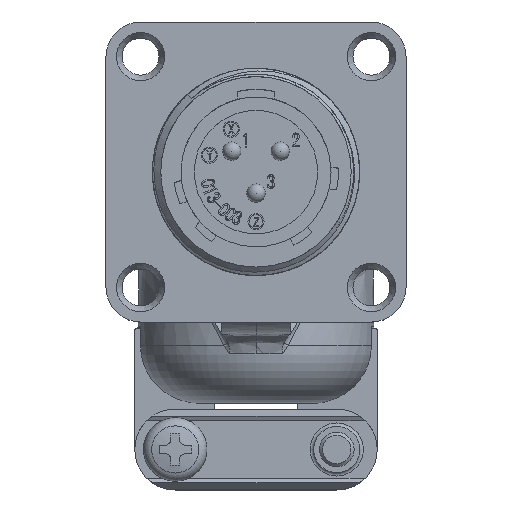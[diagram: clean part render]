
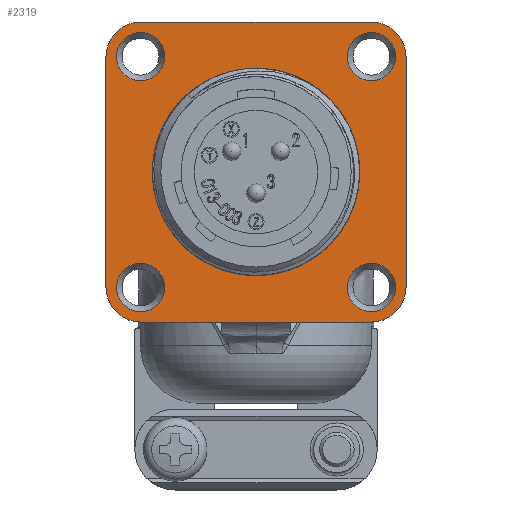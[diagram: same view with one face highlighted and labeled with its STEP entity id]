
A CAD part, top view. The second image highlights one B-rep face of the part: STEP entity #2319.
In plain terms, the highlighted planar face has unit normal (0, 0, 1).
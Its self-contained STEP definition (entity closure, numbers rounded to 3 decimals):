
#368 = ORIENTED_EDGE ( 'NONE', *, *, #5890, .F. ) ;
#435 = CARTESIAN_POINT ( 'NONE',  ( 10., 13., -10.5 ) ) ;
#471 = CIRCLE ( 'NONE', #16499, 3. ) ;
#694 = VERTEX_POINT ( 'NONE', #16224 ) ;
#932 = CARTESIAN_POINT ( 'NONE',  ( -10., 13., -10.5 ) ) ;
#1005 = CIRCLE ( 'NONE', #25252, 2.1 ) ;
#1111 = CARTESIAN_POINT ( 'NONE',  ( -7.9, 10., -10.5 ) ) ;
#1184 = FACE_BOUND ( 'NONE', #9155, .T. ) ;
#1291 = CARTESIAN_POINT ( 'NONE',  ( -13., 10., -10.5 ) ) ;
#1998 = DIRECTION ( 'NONE',  ( 1., 0., 0. ) ) ;
#2143 = AXIS2_PLACEMENT_3D ( 'NONE', #4277, #14173, #29239 ) ;
#2319 = ADVANCED_FACE ( 'NONE', ( #25149, #1184, #30175, #10415, #19708, #6972 ), #17614, .T. ) ;
#2865 = CARTESIAN_POINT ( 'NONE',  ( 10., 10., -10.5 ) ) ;
#3333 = ORIENTED_EDGE ( 'NONE', *, *, #7819, .F. ) ;
#4277 = CARTESIAN_POINT ( 'NONE',  ( 10., 10., -10.5 ) ) ;
#4804 = DIRECTION ( 'NONE',  ( -1., 0., 0. ) ) ;
#5155 = AXIS2_PLACEMENT_3D ( 'NONE', #7423, #24774, #24559 ) ;
#5664 = CIRCLE ( 'NONE', #31162, 3. ) ;
#5890 = EDGE_CURVE ( 'NONE', #22258, #22258, #14991, .T. ) ;
#5948 = VERTEX_POINT ( 'NONE', #23181 ) ;
#6508 = CARTESIAN_POINT ( 'NONE',  ( -10., -13., -10.5 ) ) ;
#6737 = VERTEX_POINT ( 'NONE', #28573 ) ;
#6787 = CARTESIAN_POINT ( 'NONE',  ( -13., -10., -10.5 ) ) ;
#6972 = FACE_BOUND ( 'NONE', #17906, .T. ) ;
#7423 = CARTESIAN_POINT ( 'NONE',  ( -10., 10., -10.5 ) ) ;
#7598 = CARTESIAN_POINT ( 'NONE',  ( 10., -10., -10.5 ) ) ;
#7746 = ORIENTED_EDGE ( 'NONE', *, *, #26817, .F. ) ;
#7785 = EDGE_CURVE ( 'NONE', #694, #13665, #25817, .T. ) ;
#7815 = CIRCLE ( 'NONE', #15331, 2.1 ) ;
#7819 = EDGE_CURVE ( 'NONE', #7927, #14527, #25036, .T. ) ;
#7927 = VERTEX_POINT ( 'NONE', #6787 ) ;
#7948 = CARTESIAN_POINT ( 'NONE',  ( 0., 0., -10.5 ) ) ;
#8345 = EDGE_LOOP ( 'NONE', ( #13578 ) ) ;
#8474 = EDGE_CURVE ( 'NONE', #29478, #694, #5664, .T. ) ;
#8718 = CIRCLE ( 'NONE', #8967, 3. ) ;
#8850 = EDGE_CURVE ( 'NONE', #20666, #26315, #8718, .T. ) ;
#8967 = AXIS2_PLACEMENT_3D ( 'NONE', #2865, #17768, #20173 ) ;
#9155 = EDGE_LOOP ( 'NONE', ( #7746 ) ) ;
#9839 = CARTESIAN_POINT ( 'NONE',  ( -10., -10., -10.5 ) ) ;
#9967 = DIRECTION ( 'NONE',  ( 0., 0., -1. ) ) ;
#10415 = FACE_BOUND ( 'NONE', #23790, .T. ) ;
#10660 = CARTESIAN_POINT ( 'NONE',  ( 10., 13., -10.5 ) ) ;
#10855 = EDGE_CURVE ( 'NONE', #14527, #11515, #17349, .T. ) ;
#10895 = DIRECTION ( 'NONE',  ( 1., 0., 0. ) ) ;
#11395 = EDGE_CURVE ( 'NONE', #5948, #5948, #17458, .T. ) ;
#11515 = VERTEX_POINT ( 'NONE', #932 ) ;
#11753 = ORIENTED_EDGE ( 'NONE', *, *, #7785, .F. ) ;
#11826 = ORIENTED_EDGE ( 'NONE', *, *, #24692, .F. ) ;
#12122 = CARTESIAN_POINT ( 'NONE',  ( 10., -10., -10.5 ) ) ;
#12258 = VECTOR ( 'NONE', #18561, 1000. ) ;
#12668 = DIRECTION ( 'NONE',  ( 0., 0., 1. ) ) ;
#12862 = DIRECTION ( 'NONE',  ( 1., 0., 0. ) ) ;
#13205 = EDGE_LOOP ( 'NONE', ( #18050, #11753, #18484, #28718, #14724, #16040, #23509, #3333 ) ) ;
#13362 = CARTESIAN_POINT ( 'NONE',  ( 13., -10., -10.5 ) ) ;
#13578 = ORIENTED_EDGE ( 'NONE', *, *, #11395, .F. ) ;
#13665 = VERTEX_POINT ( 'NONE', #6508 ) ;
#14173 = DIRECTION ( 'NONE',  ( 0., 0., 1. ) ) ;
#14282 = DIRECTION ( 'NONE',  ( 0., 0., 1. ) ) ;
#14527 = VERTEX_POINT ( 'NONE', #26327 ) ;
#14724 = ORIENTED_EDGE ( 'NONE', *, *, #8850, .F. ) ;
#14991 = CIRCLE ( 'NONE', #2143, 2.1 ) ;
#15065 = CARTESIAN_POINT ( 'NONE',  ( -10., -10., -10.5 ) ) ;
#15331 = AXIS2_PLACEMENT_3D ( 'NONE', #15065, #19951, #12862 ) ;
#15612 = VECTOR ( 'NONE', #18486, 1000. ) ;
#16040 = ORIENTED_EDGE ( 'NONE', *, *, #24090, .F. ) ;
#16224 = CARTESIAN_POINT ( 'NONE',  ( 10., -13., -10.5 ) ) ;
#16499 = AXIS2_PLACEMENT_3D ( 'NONE', #19976, #24448, #22166 ) ;
#16759 = VERTEX_POINT ( 'NONE', #18480 ) ;
#17349 = CIRCLE ( 'NONE', #5155, 3. ) ;
#17458 = CIRCLE ( 'NONE', #25247, 2.1 ) ;
#17614 = PLANE ( 'NONE',  #27761 ) ;
#17768 = DIRECTION ( 'NONE',  ( 0., 0., -1. ) ) ;
#17906 = EDGE_LOOP ( 'NONE', ( #23667 ) ) ;
#17924 = VERTEX_POINT ( 'NONE', #1111 ) ;
#18050 = ORIENTED_EDGE ( 'NONE', *, *, #19736, .F. ) ;
#18480 = CARTESIAN_POINT ( 'NONE',  ( 8.98, 0., -10.5 ) ) ;
#18484 = ORIENTED_EDGE ( 'NONE', *, *, #8474, .F. ) ;
#18486 = DIRECTION ( 'NONE',  ( 0., -1., 0. ) ) ;
#18524 = CARTESIAN_POINT ( 'NONE',  ( -10., 10., -10.5 ) ) ;
#18561 = DIRECTION ( 'NONE',  ( 0., 1., 0. ) ) ;
#19708 = FACE_BOUND ( 'NONE', #28226, .T. ) ;
#19736 = EDGE_CURVE ( 'NONE', #13665, #7927, #471, .T. ) ;
#19951 = DIRECTION ( 'NONE',  ( 0., 0., 1. ) ) ;
#19976 = CARTESIAN_POINT ( 'NONE',  ( -10., -10., -10.5 ) ) ;
#20173 = DIRECTION ( 'NONE',  ( -1., 0., 0. ) ) ;
#20666 = VERTEX_POINT ( 'NONE', #435 ) ;
#20855 = DIRECTION ( 'NONE',  ( 0., 0., -1. ) ) ;
#22166 = DIRECTION ( 'NONE',  ( 1., 0., 0. ) ) ;
#22258 = VERTEX_POINT ( 'NONE', #25530 ) ;
#22353 = DIRECTION ( 'NONE',  ( 1., 0., 0. ) ) ;
#22372 = CIRCLE ( 'NONE', #31044, 8.98 ) ;
#22415 = DIRECTION ( 'NONE',  ( 0., 0., 1. ) ) ;
#22810 = EDGE_CURVE ( 'NONE', #16759, #16759, #22372, .T. ) ;
#22823 = DIRECTION ( 'NONE',  ( 1., 0., 0. ) ) ;
#23181 = CARTESIAN_POINT ( 'NONE',  ( 12.1, -10., -10.5 ) ) ;
#23509 = ORIENTED_EDGE ( 'NONE', *, *, #10855, .F. ) ;
#23667 = ORIENTED_EDGE ( 'NONE', *, *, #22810, .T. ) ;
#23790 = EDGE_LOOP ( 'NONE', ( #368 ) ) ;
#23791 = CARTESIAN_POINT ( 'NONE',  ( 10., -13., -10.5 ) ) ;
#24090 = EDGE_CURVE ( 'NONE', #11515, #20666, #31579, .T. ) ;
#24448 = DIRECTION ( 'NONE',  ( 0., 0., -1. ) ) ;
#24559 = DIRECTION ( 'NONE',  ( 1., 0., 0. ) ) ;
#24692 = EDGE_CURVE ( 'NONE', #17924, #17924, #1005, .T. ) ;
#24774 = DIRECTION ( 'NONE',  ( 0., 0., -1. ) ) ;
#25036 = LINE ( 'NONE', #1291, #12258 ) ;
#25149 = FACE_OUTER_BOUND ( 'NONE', #13205, .T. ) ;
#25247 = AXIS2_PLACEMENT_3D ( 'NONE', #7598, #12668, #22353 ) ;
#25252 = AXIS2_PLACEMENT_3D ( 'NONE', #18524, #14282, #1998 ) ;
#25437 = VECTOR ( 'NONE', #28425, 1000. ) ;
#25530 = CARTESIAN_POINT ( 'NONE',  ( 12.1, 10., -10.5 ) ) ;
#25817 = LINE ( 'NONE', #23791, #25437 ) ;
#26234 = EDGE_CURVE ( 'NONE', #26315, #29478, #31104, .T. ) ;
#26315 = VERTEX_POINT ( 'NONE', #31359 ) ;
#26327 = CARTESIAN_POINT ( 'NONE',  ( -13., 10., -10.5 ) ) ;
#26817 = EDGE_CURVE ( 'NONE', #6737, #6737, #7815, .T. ) ;
#27761 = AXIS2_PLACEMENT_3D ( 'NONE', #9839, #22415, #29864 ) ;
#28226 = EDGE_LOOP ( 'NONE', ( #11826 ) ) ;
#28425 = DIRECTION ( 'NONE',  ( -1., 0., 0. ) ) ;
#28573 = CARTESIAN_POINT ( 'NONE',  ( -7.9, -10., -10.5 ) ) ;
#28718 = ORIENTED_EDGE ( 'NONE', *, *, #26234, .F. ) ;
#29239 = DIRECTION ( 'NONE',  ( 1., 0., 0. ) ) ;
#29478 = VERTEX_POINT ( 'NONE', #13362 ) ;
#29864 = DIRECTION ( 'NONE',  ( 1., 0., 0. ) ) ;
#30020 = VECTOR ( 'NONE', #22823, 1000. ) ;
#30175 = FACE_BOUND ( 'NONE', #8345, .T. ) ;
#31044 = AXIS2_PLACEMENT_3D ( 'NONE', #7948, #20855, #10895 ) ;
#31104 = LINE ( 'NONE', #31139, #15612 ) ;
#31139 = CARTESIAN_POINT ( 'NONE',  ( 13., 10., -10.5 ) ) ;
#31162 = AXIS2_PLACEMENT_3D ( 'NONE', #12122, #9967, #4804 ) ;
#31359 = CARTESIAN_POINT ( 'NONE',  ( 13., 10., -10.5 ) ) ;
#31579 = LINE ( 'NONE', #10660, #30020 ) ;
